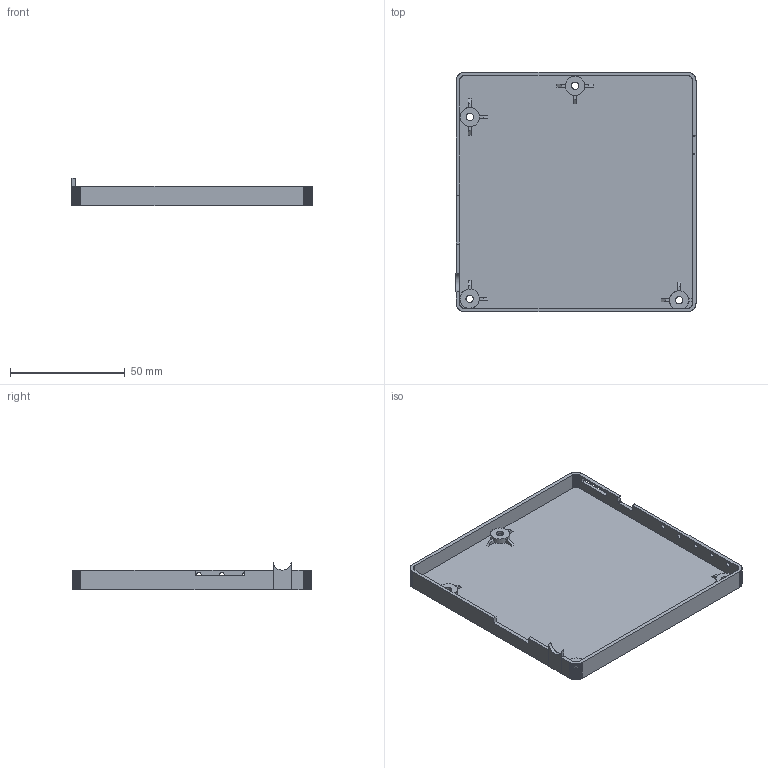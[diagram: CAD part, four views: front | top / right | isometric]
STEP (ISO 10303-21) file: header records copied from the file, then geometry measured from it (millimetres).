
FILE_DESCRIPTION(('Designed by EasyEDA Pro'),'2;1');
FILE_NAME('Open CASCADE Shape Model','2024-12-04T17:52:08',('Author'),( 'Open CASCADE'),'Open CASCADE STEP processor 7.8','Open CASCADE 7.8' ,'Unknown');
FILE_SCHEMA(('AUTOMOTIVE_DESIGN { 1 0 10303 214 1 1 1 1 }'));
Length unit declared in the file: millimetre
Products named in the file (1): Open CASCADE STEP translator 7.8 2
Bounding box: 104.49 x 104.4 x 12 mm (x, y, z)
Volume: 20663.9 mm3; surface area: 28460.2 mm2
Topology: 1 solids, 1 shells, 467 faces, 1383 edges, 922 vertices
Faces by surface type: bspline 467
Entity records: 30020 total; most frequent: CARTESIAN_POINT 12102, B_SPLINE_CURVE_WITH_KNOTS 4017, ORIENTED_EDGE 2766, PCURVE 2766, DEFINITIONAL_REPRESENTATION 2766, EDGE_CURVE 1383, SURFACE_CURVE 1367, VERTEX_POINT 922
